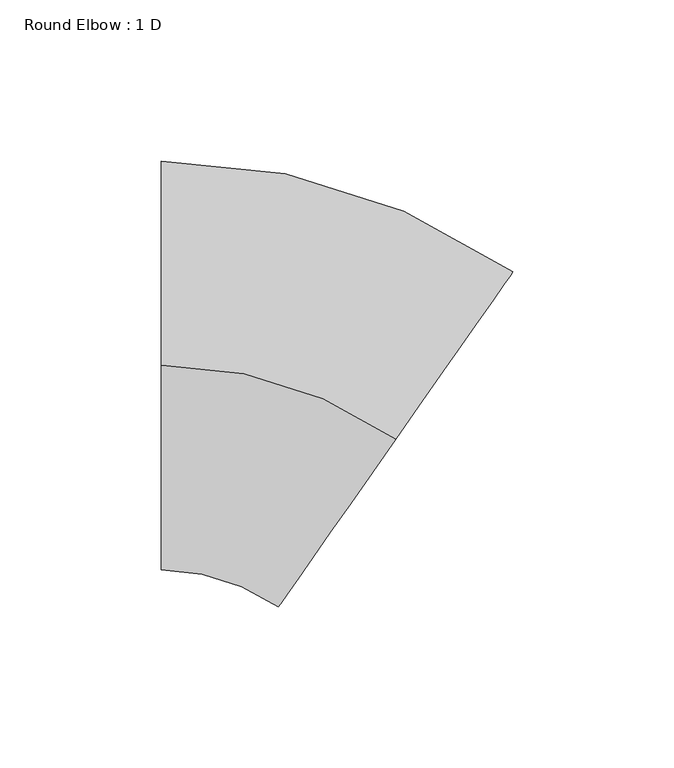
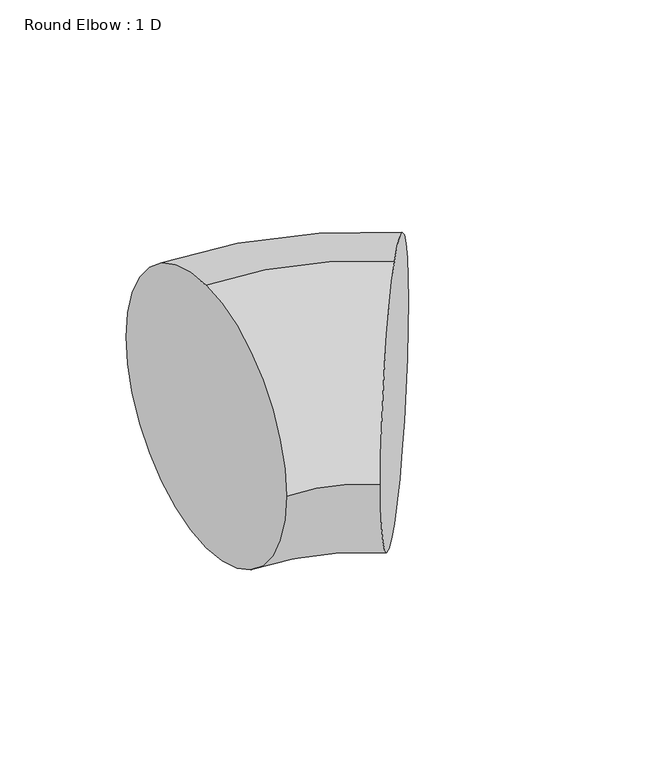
"""IFC4 building model written with IfcOpenShell, lengths in millimetres: duct fitting geometry, Round Elbow : 1 D."""

from ifc_helpers import new_model, si_unit, point, frame, origin, place, context, project, spatial, circle_curve, ellipse_curve, trimmed, source, transform, mapped, element, save
from ifc_brep_helpers import plane_surface, revolved_surface, advanced_brep


def round_elbow_1_d_88736f48(model_context):
    return source(origin(), model_context, "Body", "AdvancedBrep", [
        advanced_brep(
        [(-40.0429462, 0.0, 63.5), (-40.0429462, 63.5, 0.0), (-40.0429462, 0.0, -63.5), (-40.0429462, -63.5, 0.0), (32.8012612, -22.9676904, 63.5), (-3.6208425, -74.9838452, 0.0), (32.8012612, -22.9676904, -63.5), (69.2233649, 29.0484644, 0.0)],
        [
            (0, 1, circle_curve(frame((-40.0429462, 0.0, 0.0), z_axis=(-1.0, 0.0, 0.0), x_axis=(0.0, -1.0, 0.0)), 63.5)),
            (1, 2, circle_curve(frame((-40.0429462, 0.0, 0.0), z_axis=(-1.0, 0.0, 0.0), x_axis=(0.0, -1.0, 0.0)), 63.5)),
            (2, 3, circle_curve(frame((-40.0429462, 0.0, 0.0), z_axis=(-1.0, 0.0, 0.0), x_axis=(0.0, -1.0, 0.0)), 63.5)),
            (3, 0, circle_curve(frame((-40.0429462, 0.0, 0.0), z_axis=(-1.0, 0.0, 0.0), x_axis=(0.0, -1.0, 0.0)), 63.5)),
            (4, 5, circle_curve(frame((32.8012612, -22.9676904, 0.0), z_axis=(0.819152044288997, -0.5735764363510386, 0.0), x_axis=(-0.5735764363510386, -0.819152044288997, 0.0)), 63.5)),
            (5, 6, circle_curve(frame((32.8012612, -22.9676904, 0.0), z_axis=(0.819152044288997, -0.5735764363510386, 0.0), x_axis=(-0.5735764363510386, -0.819152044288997, 0.0)), 63.5)),
            (6, 7, circle_curve(frame((32.8012612, -22.9676904, 0.0), z_axis=(0.819152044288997, -0.5735764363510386, 0.0), x_axis=(-0.5735764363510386, -0.819152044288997, 0.0)), 63.5)),
            (7, 4, circle_curve(frame((32.8012612, -22.9676904, 0.0), z_axis=(0.819152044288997, -0.5735764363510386, 0.0), x_axis=(-0.5735764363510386, -0.819152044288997, 0.0)), 63.5)),
            (4, 0, circle_curve(frame((-40.0429462, -127.0, 63.5), z_axis=(0.0, 0.0, 1.0), x_axis=(0.0, 1.0, 0.0)), 127.0)),
            (3, 5, circle_curve(frame((-40.0429462, -127.0, 0.0), z_axis=(0.0, 0.0, -1.0), x_axis=(0.0, 1.0, 0.0)), 63.5)),
            (2, 6, circle_curve(frame((-40.0429462, -127.0, -63.5), z_axis=(0.0, 0.0, -1.0), x_axis=(0.0, 1.0, 0.0)), 127.0)),
            (1, 7, circle_curve(frame((-40.0429462, -127.0, 0.0), z_axis=(0.0, 0.0, -1.0), x_axis=(0.0, 1.0, 0.0)), 190.5)),
        ],
        [
            plane_surface(frame((-40.0429462, 0.0, 0.0), z_axis=(-1.0, 0.0, 0.0), x_axis=(0.0, 0.0, 1.0))),
            plane_surface(frame((32.8012612, -22.9676904, 0.0), z_axis=(0.819152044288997, -0.5735764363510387, 0.0), x_axis=(0.0, 0.0, 1.0))),
            revolved_surface(trimmed(ellipse_curve(frame((-40.0429462, 0.0, 0.0), z_axis=(1.0, 0.0, 0.0), x_axis=(0.0, -1.0, 0.0)), 63.5, 63.5), [point((-40.0429462, 0.0, 63.5))], [point((-40.0429462, -63.5, 0.0))], True, "CARTESIAN"), (-40.0429462, -127.0, 0.0), (0.0, 0.0, 1.0)),
            revolved_surface(trimmed(ellipse_curve(frame((-40.0429462, 0.0, 0.0), z_axis=(1.0, 0.0, 0.0), x_axis=(0.0, -1.0, 0.0)), 63.5, 63.5), [point((-40.0429462, -63.5, 0.0))], [point((-40.0429462, 0.0, -63.5))], True, "CARTESIAN"), (-40.0429462, -127.0, 0.0), (0.0, 0.0, 1.0)),
            revolved_surface(trimmed(ellipse_curve(frame((-40.0429462, 0.0, 0.0), z_axis=(1.0, 0.0, 0.0), x_axis=(0.0, -1.0, 0.0)), 63.5, 63.5), [point((-40.0429462, 0.0, -63.5))], [point((-40.0429462, 63.5, 0.0))], True, "CARTESIAN"), (-40.0429462, -127.0, 0.0), (0.0, 0.0, 1.0)),
            revolved_surface(trimmed(ellipse_curve(frame((-40.0429462, 0.0, 0.0), z_axis=(1.0, 0.0, 0.0), x_axis=(0.0, -1.0, 0.0)), 63.5, 63.5), [point((-40.0429462, 63.5, 0.0))], [point((-40.0429462, 0.0, 63.5))], True, "CARTESIAN"), (-40.0429462, -127.0, 0.0), (0.0, 0.0, 1.0)),
        ],
        [
            (0, [[1, 2, 3, 4]]),
            (1, [[5, 6, 7, 8]]),
            (2, [[-5, 9, -4, 10]]),
            (3, [[-6, -10, -3, 11]]),
            (4, [[-7, -11, -2, 12]]),
            (5, [[-8, -12, -1, -9]]),
        ],
    ),
    ])


if __name__ == "__main__":
    model = new_model("IFC4")
    model_context = context("Model", 3, world=origin())
    ifc_project = project(units=[si_unit("LENGTHUNIT", "METRE", prefix="MILLI")], contexts=[model_context])
    site = spatial("IfcSite", under=ifc_project)
    building = spatial("IfcBuilding", under=site)
    placement = place(None, origin())
    round_elbow_1_d_shape = round_elbow_1_d_88736f48(model_context)
    element("IfcDuctFitting", 1, ObjectType="Round Elbow : 1 D", at=placement, inside=building, context=model_context, shape_type="MappedRepresentation", body=[
        mapped(round_elbow_1_d_shape, transform((0.0, 0.0, 0.0), x_axis=(1.0, 0.0, 0.0), y_axis=(0.0, 1.0, 0.0), z_axis=(0.0, 0.0, 1.0))),
    ])
    save(model, "model.ifc")
